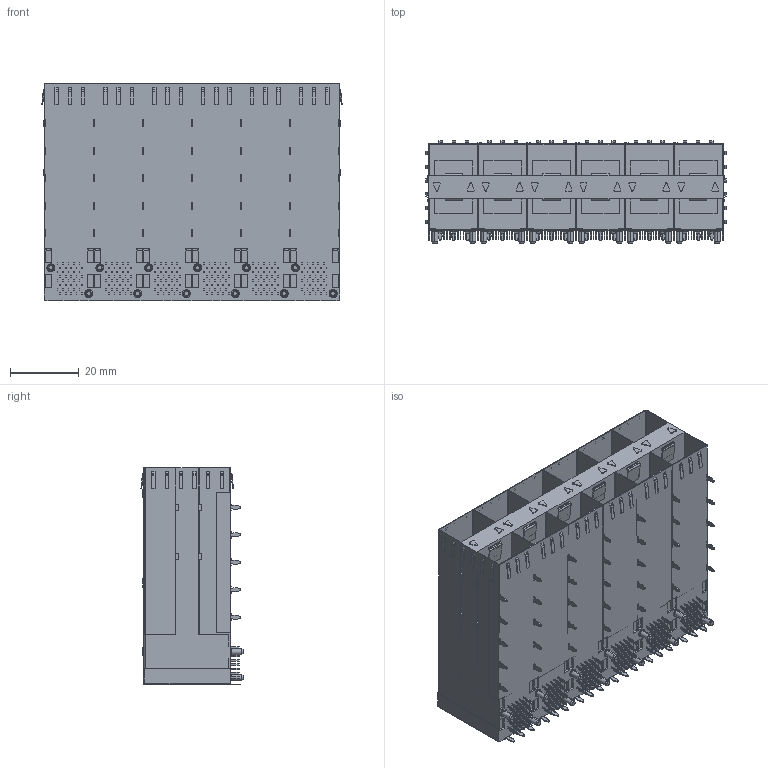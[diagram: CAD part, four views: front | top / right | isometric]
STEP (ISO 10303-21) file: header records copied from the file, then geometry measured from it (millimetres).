
FILE_DESCRIPTION (( 'STEP AP214' ), '1' );
FILE_NAME ('SFP 2X6 无月牙 外灯(下上).STEP', '2025-06-12T01:53:01', ( '桑三博客' ), ( 'Www.SangSan.Cn' ), 'SwSTEP 2.0', 'SolidWorks 2018', '' );
FILE_SCHEMA (( 'AUTOMOTIVE_DESIGN' ));
Products named in the file (1): SFP 2X6 拸堎挴 俋腑(狟奻)
Bounding box: 87.55 x 29.8 x 63.5 mm (x, y, z)
Volume: 69821.3 mm3; surface area: 48798.8 mm2
Topology: 1 solids, 1 shells, 3462 faces, 9182 edges, 6102 vertices
Faces by surface type: plane 2582, cylinder 830, cone 48, sphere 2
Entity records: 106770 total; most frequent: CARTESIAN_POINT 18745, ORIENTED_EDGE 18360, DIRECTION 17814, EDGE_CURVE 9180, VECTOR 7472, LINE 7472, VERTEX_POINT 6102, AXIS2_PLACEMENT_3D 5171
